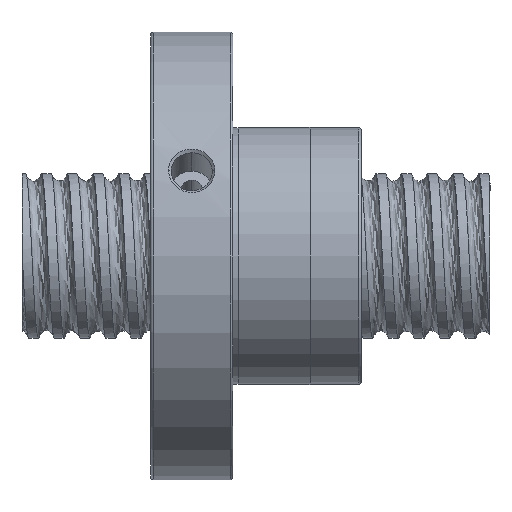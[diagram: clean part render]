
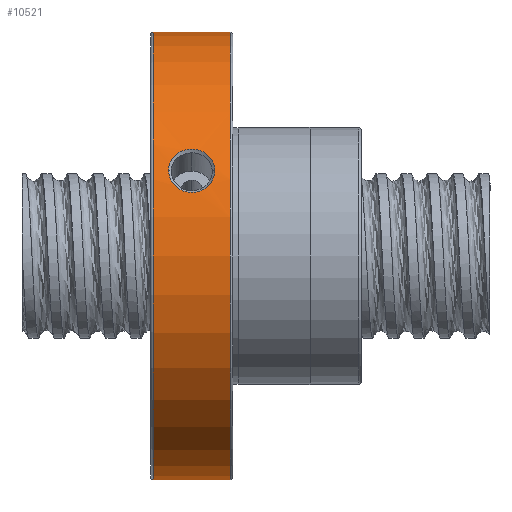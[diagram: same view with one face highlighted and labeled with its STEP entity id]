
A CAD part, front view. The second image highlights one B-rep face of the part: STEP entity #10521.
In plain terms, the highlighted cylindrical face has radius 43.5 mm (diameter 87 mm), a partial arc.
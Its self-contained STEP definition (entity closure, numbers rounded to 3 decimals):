
#8896 = DIRECTION ( 'NONE',  ( -1., 0., 0. ) ) ;
#8897 = VECTOR ( 'NONE', #8896, 1000. ) ;
#8898 = CARTESIAN_POINT ( 'NONE',  ( 0., 0., 43.5 ) ) ;
#8899 = LINE ( 'NONE', #8898, #8897 ) ;
#9065 = CARTESIAN_POINT ( 'NONE',  ( -25.5, 0., -43.5 ) ) ;
#9066 = CARTESIAN_POINT ( 'NONE',  ( -25.5, 0., 43.5 ) ) ;
#9143 = DIRECTION ( 'NONE',  ( -1., 0., 0. ) ) ;
#9144 = VECTOR ( 'NONE', #9143, 1000. ) ;
#9145 = CARTESIAN_POINT ( 'NONE',  ( 0., 0., -43.5 ) ) ;
#9146 = LINE ( 'NONE', #9145, #9144 ) ;
#9512 = CARTESIAN_POINT ( 'NONE',  ( -40.5, 0., -43.5 ) ) ;
#9629 = CARTESIAN_POINT ( 'NONE',  ( -40.5, 0., 43.5 ) ) ;
#10273 = VERTEX_POINT ( 'NONE', #11323 ) ;
#10275 = EDGE_CURVE ( 'NONE', #10276, #10273, #11322, .T. ) ;
#10276 = VERTEX_POINT ( 'NONE', #11321 ) ;
#10521 = ADVANCED_FACE ( 'NONE', ( #12287, #12286 ), #12285, .T. ) ;
#10522 = EDGE_LOOP ( 'NONE', ( #10523, #10524, #10526, #10527 ) ) ;
#10523 = ORIENTED_EDGE ( 'NONE', *, *, #17707, .F. ) ;
#10524 = ORIENTED_EDGE ( 'NONE', *, *, #10525, .T. ) ;
#10525 = EDGE_CURVE ( 'NONE', #17541, #17540, #12284, .T. ) ;
#10526 = ORIENTED_EDGE ( 'NONE', *, *, #17633, .T. ) ;
#10527 = ORIENTED_EDGE ( 'NONE', *, *, #10528, .T. ) ;
#10528 = EDGE_CURVE ( 'NONE', #17791, #17761, #12275, .T. ) ;
#10529 = EDGE_LOOP ( 'NONE', ( #10530, #10531 ) ) ;
#10530 = ORIENTED_EDGE ( 'NONE', *, *, #10275, .T. ) ;
#10531 = ORIENTED_EDGE ( 'NONE', *, *, #10532, .T. ) ;
#10532 = EDGE_CURVE ( 'NONE', #10273, #10276, #12263, .T. ) ;
#11302 = CARTESIAN_POINT ( 'NONE',  ( -28.5, -40.189, 16.647 ) ) ;
#11303 = CARTESIAN_POINT ( 'NONE',  ( -28.5, -39.96, 17.2 ) ) ;
#11304 = CARTESIAN_POINT ( 'NONE',  ( -28.616, -39.725, 17.733 ) ) ;
#11305 = CARTESIAN_POINT ( 'NONE',  ( -29.078, -39.253, 18.756 ) ) ;
#11306 = CARTESIAN_POINT ( 'NONE',  ( -29.402, -39.037, 19.198 ) ) ;
#11307 = CARTESIAN_POINT ( 'NONE',  ( -30.237, -38.656, 19.954 ) ) ;
#11308 = CARTESIAN_POINT ( 'NONE',  ( -30.724, -38.503, 20.245 ) ) ;
#11309 = CARTESIAN_POINT ( 'NONE',  ( -31.838, -38.282, 20.658 ) ) ;
#11310 = CARTESIAN_POINT ( 'NONE',  ( -32.413, -38.226, 20.761 ) ) ;
#11311 = CARTESIAN_POINT ( 'NONE',  ( -33.592, -38.226, 20.761 ) ) ;
#11312 = CARTESIAN_POINT ( 'NONE',  ( -34.166, -38.282, 20.658 ) ) ;
#11313 = CARTESIAN_POINT ( 'NONE',  ( -35.279, -38.503, 20.244 ) ) ;
#11314 = CARTESIAN_POINT ( 'NONE',  ( -35.765, -38.656, 19.953 ) ) ;
#11315 = CARTESIAN_POINT ( 'NONE',  ( -36.598, -39.037, 19.198 ) ) ;
#11316 = CARTESIAN_POINT ( 'NONE',  ( -36.922, -39.254, 18.754 ) ) ;
#11317 = CARTESIAN_POINT ( 'NONE',  ( -37.384, -39.726, 17.731 ) ) ;
#11318 = CARTESIAN_POINT ( 'NONE',  ( -37.5, -39.96, 17.198 ) ) ;
#11320 = CARTESIAN_POINT ( 'NONE',  ( -37.5, -40.189, 16.647 ) ) ;
#11321 = CARTESIAN_POINT ( 'NONE',  ( -37.5, -40.189, 16.647 ) ) ;
#11322 = B_SPLINE_CURVE_WITH_KNOTS ( 'NONE', 3,
 ( #11320, #11318, #11317, #11316, #11315, #11314, #11313, #11312, #11311, #11310, #11309, #11308, #11307, #11306, #11305, #11304, #11303, #11302 ),
 .UNSPECIFIED., .F., .F.,
 ( 4, 2, 2, 2, 2, 2, 2, 2, 4 ),
 ( 0., 0.063, 0.125, 0.188, 0.25, 0.313, 0.375, 0.438, 0.5 ),
 .UNSPECIFIED. ) ;
#11323 = CARTESIAN_POINT ( 'NONE',  ( -28.5, -40.189, 16.647 ) ) ;
#12243 = CARTESIAN_POINT ( 'NONE',  ( -37.5, -40.189, 16.647 ) ) ;
#12244 = CARTESIAN_POINT ( 'NONE',  ( -37.5, -40.417, 16.096 ) ) ;
#12245 = CARTESIAN_POINT ( 'NONE',  ( -37.384, -40.628, 15.554 ) ) ;
#12246 = CARTESIAN_POINT ( 'NONE',  ( -36.922, -41.018, 14.494 ) ) ;
#12247 = CARTESIAN_POINT ( 'NONE',  ( -36.598, -41.178, 14.029 ) ) ;
#12248 = CARTESIAN_POINT ( 'NONE',  ( -35.765, -41.443, 13.225 ) ) ;
#12249 = CARTESIAN_POINT ( 'NONE',  ( -35.278, -41.541, 12.911 ) ) ;
#12250 = CARTESIAN_POINT ( 'NONE',  ( -34.166, -41.677, 12.463 ) ) ;
#12251 = CARTESIAN_POINT ( 'NONE',  ( -33.591, -41.71, 12.349 ) ) ;
#12252 = CARTESIAN_POINT ( 'NONE',  ( -32.413, -41.71, 12.35 ) ) ;
#12253 = CARTESIAN_POINT ( 'NONE',  ( -31.838, -41.677, 12.462 ) ) ;
#12254 = CARTESIAN_POINT ( 'NONE',  ( -30.724, -41.541, 12.91 ) ) ;
#12255 = CARTESIAN_POINT ( 'NONE',  ( -30.236, -41.443, 13.224 ) ) ;
#12256 = CARTESIAN_POINT ( 'NONE',  ( -29.403, -41.178, 14.027 ) ) ;
#12257 = CARTESIAN_POINT ( 'NONE',  ( -29.077, -41.018, 14.495 ) ) ;
#12258 = CARTESIAN_POINT ( 'NONE',  ( -28.732, -40.727, 15.285 ) ) ;
#12259 = CARTESIAN_POINT ( 'NONE',  ( -28.645, -40.625, 15.554 ) ) ;
#12260 = CARTESIAN_POINT ( 'NONE',  ( -28.529, -40.413, 16.096 ) ) ;
#12261 = CARTESIAN_POINT ( 'NONE',  ( -28.5, -40.303, 16.37 ) ) ;
#12263 = B_SPLINE_CURVE_WITH_KNOTS ( 'NONE', 3,
 ( #12265, #12261, #12260, #12259, #12258, #12257, #12256, #12255, #12254, #12253, #12252, #12251, #12250, #12249, #12248, #12247, #12246, #12245, #12244, #12243 ),
 .UNSPECIFIED., .F., .F.,
 ( 4, 2, 2, 2, 2, 2, 2, 2, 2, 4 ),
 ( 0.5, 0.531, 0.563, 0.625, 0.688, 0.75, 0.813, 0.875, 0.938, 1. ),
 .UNSPECIFIED. ) ;
#12265 = CARTESIAN_POINT ( 'NONE',  ( -28.5, -40.189, 16.647 ) ) ;
#12271 = DIRECTION ( 'NONE',  ( 0., 0., 1. ) ) ;
#12272 = DIRECTION ( 'NONE',  ( 1., 0., 0. ) ) ;
#12273 = CARTESIAN_POINT ( 'NONE',  ( -40.5, 0., 0. ) ) ;
#12274 = AXIS2_PLACEMENT_3D ( 'NONE', #12273, #12272, #12271 ) ;
#12275 = CIRCLE ( 'NONE', #12274, 43.5 ) ;
#12276 = DIRECTION ( 'NONE',  ( 0., 0., -1. ) ) ;
#12277 = DIRECTION ( 'NONE',  ( -1., 0., 0. ) ) ;
#12278 = CARTESIAN_POINT ( 'NONE',  ( -25.5, 0., 0. ) ) ;
#12279 = AXIS2_PLACEMENT_3D ( 'NONE', #12278, #12277, #12276 ) ;
#12280 = DIRECTION ( 'NONE',  ( 0., 0., 1. ) ) ;
#12281 = DIRECTION ( 'NONE',  ( -1., 0., 0. ) ) ;
#12282 = CARTESIAN_POINT ( 'NONE',  ( 0., 0., 0. ) ) ;
#12283 = AXIS2_PLACEMENT_3D ( 'NONE', #12282, #12281, #12280 ) ;
#12284 = CIRCLE ( 'NONE', #12279, 43.5 ) ;
#12285 = CYLINDRICAL_SURFACE ( 'NONE', #12283, 43.5 ) ;
#12286 = FACE_BOUND ( 'NONE', #10529, .T. ) ;
#12287 = FACE_OUTER_BOUND ( 'NONE', #10522, .T. ) ;
#17540 = VERTEX_POINT ( 'NONE', #9066 ) ;
#17541 = VERTEX_POINT ( 'NONE', #9065 ) ;
#17633 = EDGE_CURVE ( 'NONE', #17540, #17791, #8899, .T. ) ;
#17707 = EDGE_CURVE ( 'NONE', #17541, #17761, #9146, .T. ) ;
#17761 = VERTEX_POINT ( 'NONE', #9512 ) ;
#17791 = VERTEX_POINT ( 'NONE', #9629 ) ;
